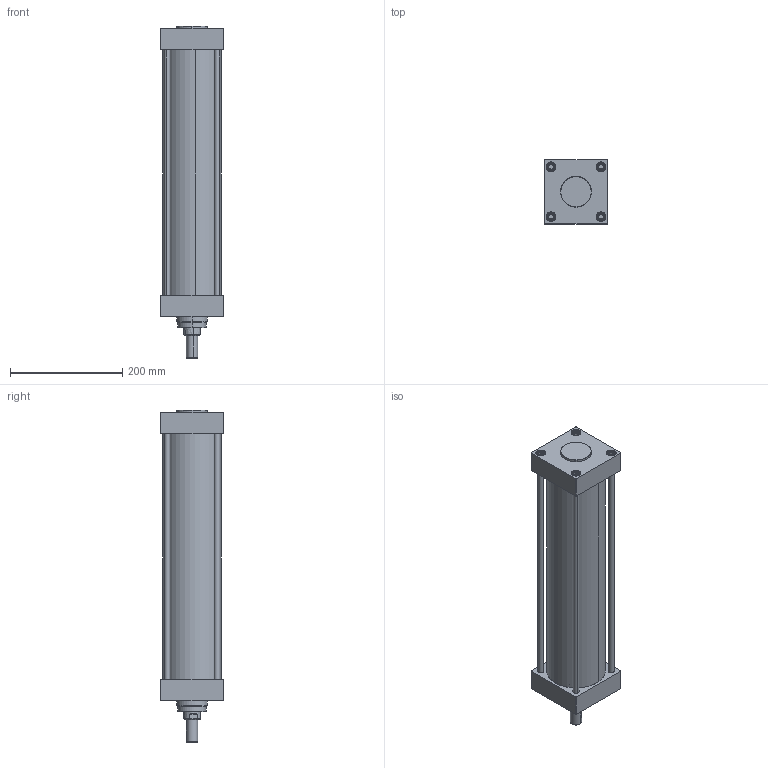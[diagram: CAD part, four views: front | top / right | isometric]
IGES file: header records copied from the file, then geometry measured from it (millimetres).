
Start section: SolidWorks IGES file using analytic representation for surfaces
Global section: file name: D:\ARICA 3D ÇÝZÝMLER\3D IGES\SC-CR-S KROM SERÝSÝ\SC-CR-S 100\SC-CR-S-100X400-CYLINDER.IGS; native system: SolidWorks 2013; preprocessor: SolidWorks 2013; author: user; date: 161031.173414; units: millimetre
Bounding box: 114 x 114 x 591.5 mm (x, y, z)
Surface area: 575754.5 mm2 (no closed solid volume)
Topology: 0 solids, 0 shells, 463 faces, 7963 edges, 7963 vertices
Faces by surface type: revolution 303, bspline 160
